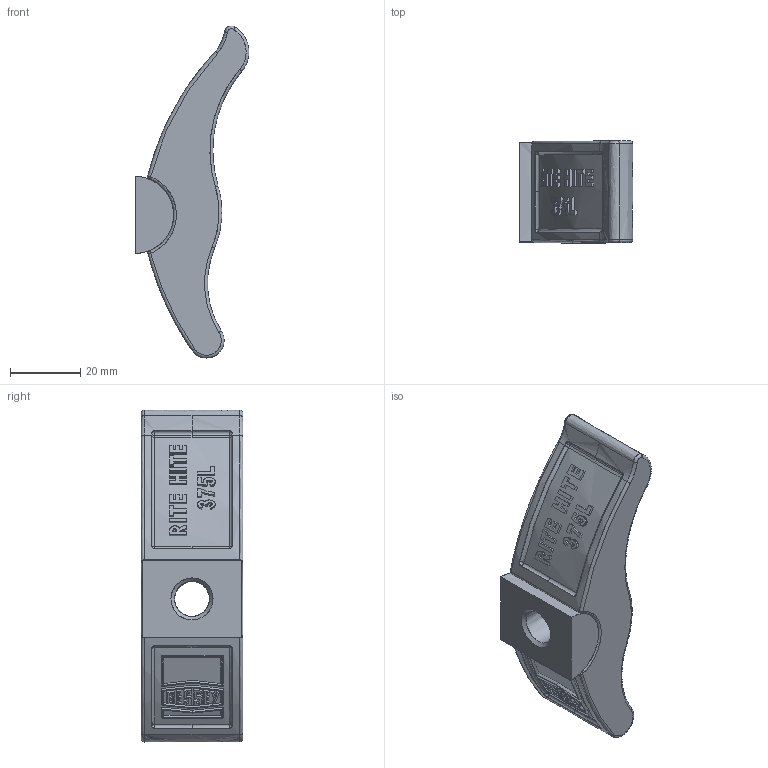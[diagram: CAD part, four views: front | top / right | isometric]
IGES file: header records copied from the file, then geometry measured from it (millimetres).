
Start section: ZWSOFT
Global section: file name: 375L.igs; native system: ZW3D; preprocessor: 1.0; author: ZW3D; organization: ZWSOFT; date: 121122.095050; units: millimetre
Bounding box: 32.5 x 29 x 94.81 mm (x, y, z)
Surface area: 12268.2 mm2 (no closed solid volume)
Topology: 0 solids, 0 shells, 505 faces, 3110 edges, 3447 vertices
Faces by surface type: bspline 505
